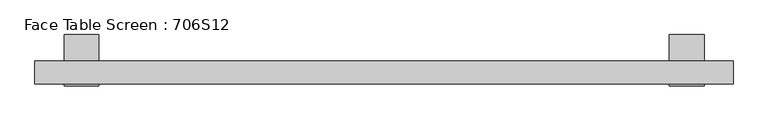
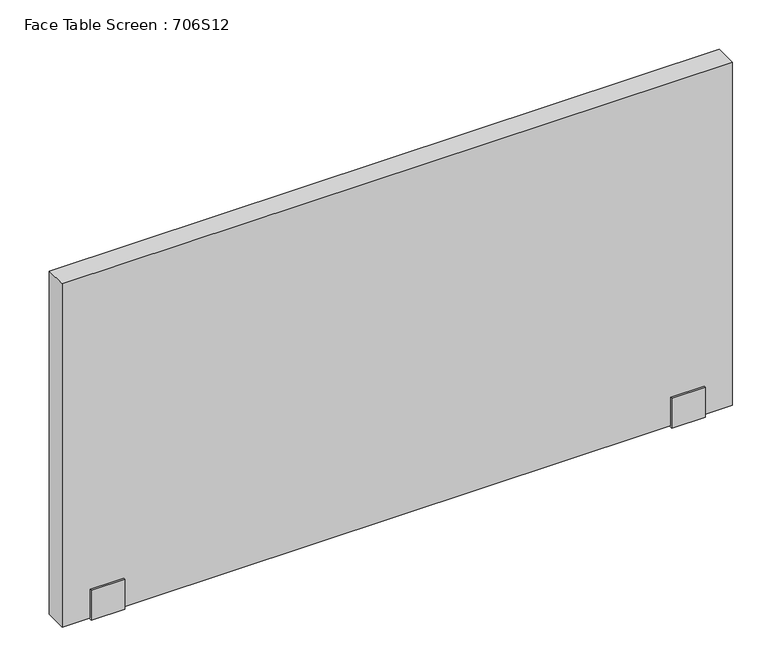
"""IFC4 building model written with IfcOpenShell, lengths in millimetres: furniture geometry, Face Table Screen : 706S12."""

import ifcopenshell
import ifcopenshell.guid

model = None  # the IFC model being written
_history = None  # IfcOwnerHistory: only IFC2X3 demands one
_inside = {}  # id of a spatial element -> (the spatial element, [elements in it])
_under = {}  # id of a project, library or spatial element -> (it, [spatial elements below it])
_declared = {}  # id of a project -> (the project, [libraries it declares])
_typed = {}  # id of a type object -> (the type object, [elements of that type])
_made_of = {}  # id of a material, layer set ... -> (it, [elements and type objects made of it])


def new_model(schema):
    """Start an empty IFC model of exactly this schema.

    Asked for "IFC4X3", IfcOpenShell would pick the latest addendum, in which some entities
    have other attributes; the version numbers below select the first issue.
    IFC2X3 requires an IfcOwnerHistory on every rooted entity: one is made here for all.
    """
    global model, _history
    if schema == "IFC4X3":
        model = ifcopenshell.file(schema_version=(4, 3, 0, 0))
    else:
        model = ifcopenshell.file(schema=schema)
    _inside.clear()
    _under.clear()
    _declared.clear()
    _typed.clear()
    _made_of.clear()
    _history = None
    if model.schema == "IFC2X3":
        org = make("IfcOrganization", Name="unknown")
        user = make(
            "IfcPersonAndOrganization",
            ThePerson=make("IfcPerson", FamilyName="unknown"),
            TheOrganization=org,
        )
        app = make(
            "IfcApplication",
            ApplicationDeveloper=org,
            Version="unknown",
            ApplicationFullName="unknown",
            ApplicationIdentifier="unknown",
        )
        _history = make(
            "IfcOwnerHistory",
            OwningUser=user,
            OwningApplication=app,
            ChangeAction="ADDED",
            CreationDate=0,
        )
    return model


def make(cls, **values):
    """One entity of the class cls with the attributes given. An attribute that is None is left unset."""
    return model.create_entity(
        cls, **{name: value for name, value in values.items() if value is not None}
    )


def rooted(cls, **values):
    """An entity with a GlobalId (a new one), such as an element, a storey or a relation."""
    return make(cls, GlobalId=ifcopenshell.guid.new(), OwnerHistory=_history, **values)


def si_unit(unit_type, name, prefix=None):
    """IfcSIUnit, for example si_unit("LENGTHUNIT", "METRE", prefix="MILLI")."""
    return make("IfcSIUnit", UnitType=unit_type, Prefix=prefix, Name=name)


def assignment(units):
    """IfcUnitAssignment: the units of a project."""
    return None if units is None else make("IfcUnitAssignment", Units=units)


def point(xyz):
    """IfcCartesianPoint."""
    return None if xyz is None else make("IfcCartesianPoint", Coordinates=xyz)


def direction(xyz):
    """IfcDirection."""
    return None if xyz is None else make("IfcDirection", DirectionRatios=xyz)


def frame(location, z_axis=None, x_axis=None):
    """IfcAxis2Placement3D, a coordinate frame: its origin and axes. An axis left out is left unset."""
    return make(
        "IfcAxis2Placement3D",
        Location=point(location),
        Axis=direction(z_axis),
        RefDirection=direction(x_axis),
    )


def origin():
    """The frame at (0, 0, 0) with its axes left unset."""
    return frame((0.0, 0.0, 0.0))


def place(relative_to, where):
    """IfcLocalPlacement: puts the frame where relative to a parent placement (None: the world)."""
    return make(
        "IfcLocalPlacement", PlacementRelTo=relative_to, RelativePlacement=where
    )


def context(
    kind, dimensions, precision=None, world=None, true_north=None, identifier=None
):
    """IfcGeometricRepresentationContext, for example the 3D "Model" context."""
    return make(
        "IfcGeometricRepresentationContext",
        ContextIdentifier=identifier,
        ContextType=kind,
        CoordinateSpaceDimension=dimensions,
        Precision=precision,
        WorldCoordinateSystem=world,
        TrueNorth=true_north,
    )


def project(units=None, contexts=None):
    """IfcProject with its units and contexts."""
    return rooted(
        "IfcProject",
        Name="project",
        RepresentationContexts=contexts,
        UnitsInContext=assignment(units),
    )


def spatial(cls, under=None, at=None, **own):
    """A site, building, storey or space (cls), placed at a placement, below another one or the project."""
    s = rooted(cls, ObjectPlacement=at, **own)
    if under is not None:
        _under.setdefault(under.id(), (under, []))[1].append(s)
    return s


def polyline(points):
    """IfcPolyline through the points."""
    return make("IfcPolyline", Points=[point(p) for p in points])


def outline(outer, holes=None, kind="AREA"):
    """IfcArbitraryClosedProfileDef: a profile drawn as a closed curve; with holes, ...WithVoids."""
    if holes is None:
        return make("IfcArbitraryClosedProfileDef", ProfileType=kind, OuterCurve=outer)
    return make(
        "IfcArbitraryProfileDefWithVoids",
        ProfileType=kind,
        OuterCurve=outer,
        InnerCurves=holes,
    )


def extrude(swept, where, along, depth):
    """IfcExtrudedAreaSolid: the profile swept, set in the frame where, extruded along a direction by depth."""
    return make(
        "IfcExtrudedAreaSolid",
        SweptArea=swept,
        Position=where,
        ExtrudedDirection=direction(along),
        Depth=depth,
    )


def shape(context_of_items, identifier, shape_type, items):
    """IfcShapeRepresentation: the items that make up one representation, for example the "Body"."""
    return make(
        "IfcShapeRepresentation",
        ContextOfItems=context_of_items,
        RepresentationIdentifier=identifier,
        RepresentationType=shape_type,
        Items=items,
    )


def source(mapping_origin, context_of_items, identifier, shape_type, items):
    """IfcRepresentationMap: a shape defined once, which mapped items show again and again."""
    return make(
        "IfcRepresentationMap",
        MappingOrigin=mapping_origin,
        MappedRepresentation=shape(context_of_items, identifier, shape_type, items),
    )


def transform(
    local_origin,
    x_axis=None,
    y_axis=None,
    z_axis=None,
    scale=None,
    scale2=None,
    scale3=None,
    uniform=True,
):
    """IfcCartesianTransformationOperator3D, or its non-uniform kind. x_axis, y_axis, z_axis: its Axis1, 2, 3."""
    if uniform:
        return make(
            "IfcCartesianTransformationOperator3D",
            Axis1=direction(x_axis),
            Axis2=direction(y_axis),
            LocalOrigin=point(local_origin),
            Scale=scale,
            Axis3=direction(z_axis),
        )
    return make(
        "IfcCartesianTransformationOperator3DnonUniform",
        Axis1=direction(x_axis),
        Axis2=direction(y_axis),
        LocalOrigin=point(local_origin),
        Scale=scale,
        Axis3=direction(z_axis),
        Scale2=scale2,
        Scale3=scale3,
    )


def mapped(mapping_source, mapping_target):
    """IfcMappedItem: shows the shape of a source again, moved by a transform."""
    return make(
        "IfcMappedItem", MappingSource=mapping_source, MappingTarget=mapping_target
    )


def made_of(thing, what):
    """Note that an element or type object is made of a material, layer set ...; save() writes the relation."""
    if what is not None:
        _made_of.setdefault(what.id(), (what, []))[1].append(thing)
    return thing


def element(
    cls,
    number,
    at=None,
    inside=None,
    cuts=None,
    type_object=None,
    material=None,
    context=None,
    identifier="Body",
    shape_type=None,
    held_by="IfcProductDefinitionShape",
    body=None,
    shapes=None,
    **own,
):
    """One element of the class cls, such as IfcWall. Its Tag is "e" and its number.

    at: its placement. inside: the storey or other place that contains it. cuts: it is an
    opening in that element (IfcRelVoidsElement). A single representation is given by context,
    identifier, shape_type and body (its items); several are given by shapes. held_by: the class
    of the entity that holds the representations. save() writes the other relations.
    """
    e = rooted(cls, Tag="e%d" % number, ObjectPlacement=at, **own)
    if body is not None:
        shapes = [shape(context, identifier, shape_type, body)]
    if shapes is not None:
        e.Representation = make(held_by, Representations=shapes)
    if inside is not None:
        _inside.setdefault(inside.id(), (inside, []))[1].append(e)
    if cuts is not None:
        rooted(
            "IfcRelVoidsElement", RelatingBuildingElement=cuts, RelatedOpeningElement=e
        )
    if type_object is not None:
        _typed.setdefault(type_object.id(), (type_object, []))[1].append(e)
    return made_of(e, material)


def aggregate(whole, parts):
    """IfcRelAggregates: a whole, such as a stair, and the parts it consists of."""
    return rooted("IfcRelAggregates", RelatingObject=whole, RelatedObjects=parts)


def save(model, path):
    """Write the relations noted so far, then the file.

    IfcRelAggregates (storeys below a building ...), IfcRelContainedInSpatialStructure (elements
    in a storey), IfcRelDefinesByType, IfcRelAssociatesMaterial and IfcRelDeclares: one each for
    every whole, place, type object, material and project.
    """
    for whole, parts in _under.values():
        aggregate(whole, parts)
    for where, things in _inside.values():
        rooted(
            "IfcRelContainedInSpatialStructure",
            RelatedElements=things,
            RelatingStructure=where,
        )
    for kind, things in _typed.values():
        rooted("IfcRelDefinesByType", RelatedObjects=things, RelatingType=kind)
    for what, things in _made_of.values():
        rooted("IfcRelAssociatesMaterial", RelatedObjects=things, RelatingMaterial=what)
    for by, libraries in _declared.values():
        rooted("IfcRelDeclares", RelatingContext=by, RelatedDefinitions=libraries)
    model.write(path)


def face_table_screen_706s12_a55fd78f(model_context):
    return source(origin(), model_context, "Body", "SweptSolid", [
        extrude(outline(polyline([(-22.9999947, -156.0), (-22.9999997, -99.0433898), (-20.0, -99.0433898), (-20.0, -153.0), (20.0, -153.0), (20.0, -22.0), (65.0, -22.0), (65.0, -25.0433898), (23.0000062, -25.0433898), (22.9999947, -156.0), (-22.9999947, -156.0)])), frame((490.0, 0.0, 0.0), z_axis=(1.0, 0.0, 0.0), x_axis=(0.0, 1.0, 0.0)), (0.0, 0.0, 1.0), 60.0),
        extrude(outline(polyline([(-22.9999947, -156.0), (-22.9999997, -99.0433898), (-20.0, -99.0433898), (-20.0, -153.0), (20.0, -153.0), (20.0, -22.0), (65.0, -22.0), (65.0, -25.0433898), (23.0000062, -25.0433898), (22.9999947, -156.0), (-22.9999947, -156.0)])), frame((-550.0, 0.0, 0.0), z_axis=(1.0, 0.0, 0.0), x_axis=(0.0, 1.0, 0.0)), (0.0, 0.0, 1.0), 60.0),
        extrude(outline(polyline([(600.0, -20.0), (-600.0, -20.0), (-600.0, 20.0), (600.0, 20.0), (600.0, -20.0)])), frame((0.0, 0.0, -153.0), z_axis=(0.0, 0.0, 1.0), x_axis=(1.0, 0.0, 0.0)), (0.0, 0.0, 1.0), 650.0),
    ])


if __name__ == "__main__":
    model = new_model("IFC4")
    model_context = context("Model", 3, world=origin())
    ifc_project = project(units=[si_unit("LENGTHUNIT", "METRE", prefix="MILLI")], contexts=[model_context])
    site = spatial("IfcSite", under=ifc_project)
    building = spatial("IfcBuilding", under=site)
    placement = place(None, origin())
    face_table_screen_706s12_shape = face_table_screen_706s12_a55fd78f(model_context)
    element("IfcFurniture", 1, ObjectType="Face Table Screen : 706S12", at=placement, inside=building, context=model_context, shape_type="MappedRepresentation", body=[
        mapped(face_table_screen_706s12_shape, transform((0.0, 0.0, 0.0), x_axis=(1.0, 0.0, 0.0), y_axis=(0.0, 1.0, 0.0), z_axis=(0.0, 0.0, 1.0))),
    ])
    save(model, "model.ifc")
